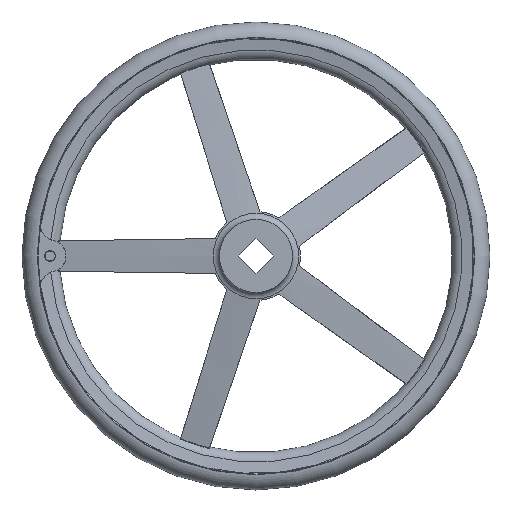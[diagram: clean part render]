
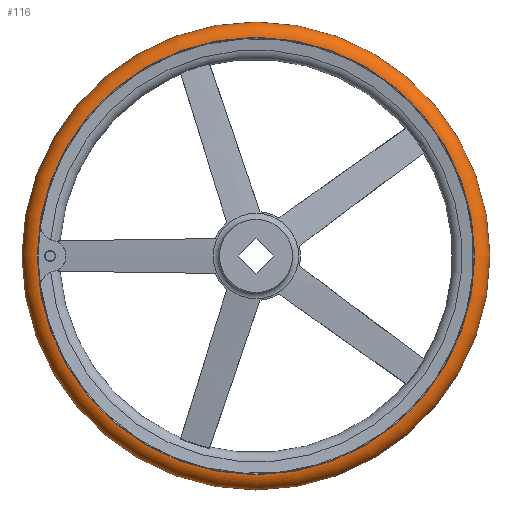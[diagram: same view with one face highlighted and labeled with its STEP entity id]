
A CAD part, left-side view. The second image highlights one B-rep face of the part: STEP entity #116.
In plain terms, the highlighted toroidal (fillet/blend) face has major radius 232.985 mm and minor radius 17.015 mm.
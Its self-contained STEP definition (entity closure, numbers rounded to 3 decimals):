
#116 = ADVANCED_FACE( '', ( #240, #241, #242 ), #243, .T. );
#240 = FACE_BOUND( '', #396, .T. );
#241 = FACE_OUTER_BOUND( '', #397, .T. );
#242 = FACE_OUTER_BOUND( '', #398, .T. );
#243 = TOROIDAL_SURFACE( '', #399, 232.985, 17.015 );
#396 = VERTEX_LOOP( '', #846 );
#397 = EDGE_LOOP( '', ( #847 ) );
#398 = EDGE_LOOP( '', ( #848 ) );
#399 = AXIS2_PLACEMENT_3D( '', #849, #850, #851 );
#846 = VERTEX_POINT( '', #1152 );
#847 = ORIENTED_EDGE( '', *, *, #1153, .T. );
#848 = ORIENTED_EDGE( '', *, *, #1069, .F. );
#849 = CARTESIAN_POINT( '', ( 55., 0., 0. ) );
#850 = DIRECTION( '', ( 1., 0., 0. ) );
#851 = DIRECTION( '', ( 0., 1., 0. ) );
#1069 = EDGE_CURVE( '', #1290, #1290, #1291, .T. );
#1152 = CARTESIAN_POINT( '', ( 55., 250., 0. ) );
#1153 = EDGE_CURVE( '', #1424, #1424, #1425, .T. );
#1290 = VERTEX_POINT( '', #1858 );
#1291 = CIRCLE( '', #1859, 233.708 );
#1424 = VERTEX_POINT( '', #2344 );
#1425 = CIRCLE( '', #2345, 233.708 );
#1858 = CARTESIAN_POINT( '', ( 72., 233.708, 0. ) );
#1859 = AXIS2_PLACEMENT_3D( '', #2503, #2504, #2505 );
#2344 = CARTESIAN_POINT( '', ( 38., 233.708, 0. ) );
#2345 = AXIS2_PLACEMENT_3D( '', #2600, #2601, #2602 );
#2503 = CARTESIAN_POINT( '', ( 72., 0., 0. ) );
#2504 = DIRECTION( '', ( 1., 0., 0. ) );
#2505 = DIRECTION( '', ( 0., 1., 0. ) );
#2600 = CARTESIAN_POINT( '', ( 38., 0., 0. ) );
#2601 = DIRECTION( '', ( 1., 0., 0. ) );
#2602 = DIRECTION( '', ( 0., 1., 0. ) );
